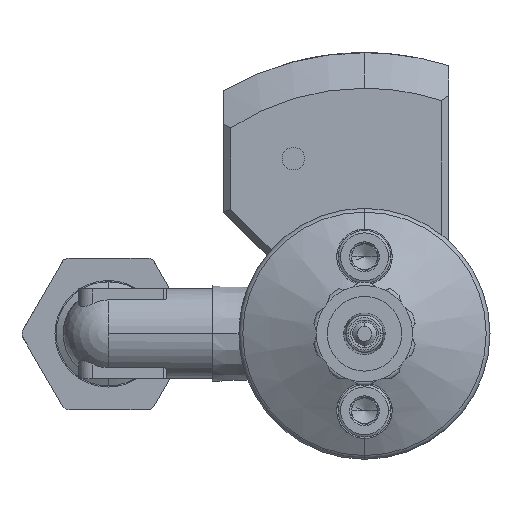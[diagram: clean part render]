
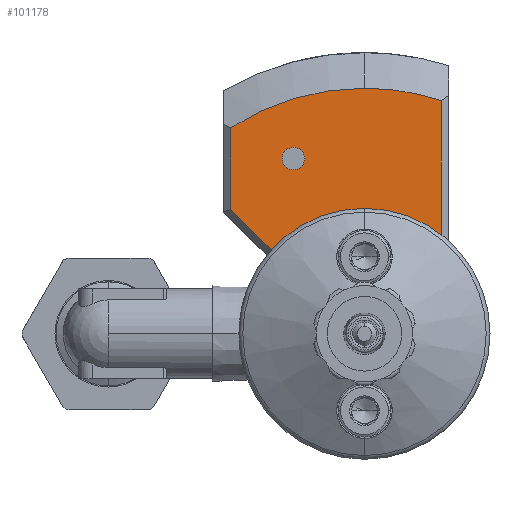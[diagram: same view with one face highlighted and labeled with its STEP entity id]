
A CAD part, front view. The second image highlights one B-rep face of the part: STEP entity #101178.
In plain terms, the highlighted planar face has unit normal (0, -1, 0).
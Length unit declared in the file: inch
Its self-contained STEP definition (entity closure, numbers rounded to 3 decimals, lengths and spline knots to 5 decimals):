
#329 = EDGE_CURVE ( 'NONE', #42288, #186733, #188369, .T. ) ;
#987 = ORIENTED_EDGE ( 'NONE', *, *, #127117, .F. ) ;
#1283 = ORIENTED_EDGE ( 'NONE', *, *, #47360, .T. ) ;
#3626 = VECTOR ( 'NONE', #183651, 39.37008 ) ;
#5422 = EDGE_CURVE ( 'NONE', #46548, #13690, #79040, .T. ) ;
#9818 = VECTOR ( 'NONE', #33631, 39.37008 ) ;
#12690 = ORIENTED_EDGE ( 'NONE', *, *, #35525, .T. ) ;
#13482 = ORIENTED_EDGE ( 'NONE', *, *, #89850, .T. ) ;
#13690 = VERTEX_POINT ( 'NONE', #169957 ) ;
#14234 = CARTESIAN_POINT ( 'NONE',  ( -0.565, 0.005, 0. ) ) ;
#14395 = ORIENTED_EDGE ( 'NONE', *, *, #131683, .T. ) ;
#16151 = VECTOR ( 'NONE', #110164, 39.37008 ) ;
#18172 = CARTESIAN_POINT ( 'NONE',  ( 0.325, 0.005, 0. ) ) ;
#19077 = AXIS2_PLACEMENT_3D ( 'NONE', #149805, #135701, #107337 ) ;
#25115 = ORIENTED_EDGE ( 'NONE', *, *, #46144, .T. ) ;
#28229 = CARTESIAN_POINT ( 'NONE',  ( 0.325, 0.005, 0.98476 ) ) ;
#29725 = ORIENTED_EDGE ( 'NONE', *, *, #329, .T. ) ;
#33631 = DIRECTION ( 'NONE',  ( 0., 0., 1. ) ) ;
#35525 = EDGE_CURVE ( 'NONE', #86364, #190155, #69199, .T. ) ;
#37175 = CARTESIAN_POINT ( 'NONE',  ( 0.0465, 0.005, 0.5127 ) ) ;
#39263 = DIRECTION ( 'NONE',  ( 0., 0., 1. ) ) ;
#42288 = VERTEX_POINT ( 'NONE', #80417 ) ;
#42961 = FACE_OUTER_BOUND ( 'NONE', #160285, .T. ) ;
#42978 = EDGE_CURVE ( 'NONE', #138469, #190155, #79573, .T. ) ;
#46144 = EDGE_CURVE ( 'NONE', #82921, #63250, #138472, .T. ) ;
#46548 = VERTEX_POINT ( 'NONE', #161522 ) ;
#46689 = DIRECTION ( 'NONE',  ( 0., 1., 0. ) ) ;
#47360 = EDGE_CURVE ( 'NONE', #129445, #82921, #105788, .T. ) ;
#47873 = ORIENTED_EDGE ( 'NONE', *, *, #162116, .T. ) ;
#54097 = CARTESIAN_POINT ( 'NONE',  ( 0., 0.005, 0. ) ) ;
#54994 = DIRECTION ( 'NONE',  ( 0., 0., 1. ) ) ;
#56435 = EDGE_CURVE ( 'NONE', #63250, #86364, #124252, .T. ) ;
#56953 = DIRECTION ( 'NONE',  ( 0., 0., 1. ) ) ;
#57651 = DIRECTION ( 'NONE',  ( 0.707, 0., -0.707 ) ) ;
#60325 = DIRECTION ( 'NONE',  ( -1., 0., 0. ) ) ;
#60355 = VECTOR ( 'NONE', #57651, 39.37008 ) ;
#62271 = CARTESIAN_POINT ( 'NONE',  ( 0., 0.005, 0.3427 ) ) ;
#63250 = VERTEX_POINT ( 'NONE', #130174 ) ;
#66314 = CARTESIAN_POINT ( 'NONE',  ( 0.31601, 0.005, 0.381 ) ) ;
#66827 = DIRECTION ( 'NONE',  ( 0., -1., 0. ) ) ;
#69199 = CIRCLE ( 'NONE', #178429, 0.495 ) ;
#69404 = PLANE ( 'NONE',  #90397 ) ;
#72317 = CARTESIAN_POINT ( 'NONE',  ( 0., 0.005, 0. ) ) ;
#73818 = CARTESIAN_POINT ( 'NONE',  ( -0.565, 0.005, 0.52598 ) ) ;
#76064 = CARTESIAN_POINT ( 'NONE',  ( -0.0465, 0.005, 0.49281 ) ) ;
#76093 = ORIENTED_EDGE ( 'NONE', *, *, #42978, .F. ) ;
#77754 = AXIS2_PLACEMENT_3D ( 'NONE', #72317, #189306, #54994 ) ;
#79040 = CIRCLE ( 'NONE', #19077, 0.04724 ) ;
#79573 = LINE ( 'NONE', #168830, #3626 ) ;
#80417 = CARTESIAN_POINT ( 'NONE',  ( 0.0465, 0.005, 0.49281 ) ) ;
#82921 = VERTEX_POINT ( 'NONE', #73818 ) ;
#83673 = ORIENTED_EDGE ( 'NONE', *, *, #5422, .T. ) ;
#85948 = CARTESIAN_POINT ( 'NONE',  ( -0.01951, 0.005, -0.01951 ) ) ;
#86364 = VERTEX_POINT ( 'NONE', #127150 ) ;
#87152 = DIRECTION ( 'NONE',  ( 0., -1., 0. ) ) ;
#87873 = VERTEX_POINT ( 'NONE', #28229 ) ;
#89850 = EDGE_CURVE ( 'NONE', #128271, #129445, #96027, .T. ) ;
#90397 = AXIS2_PLACEMENT_3D ( 'NONE', #127213, #98886, #184431 ) ;
#96027 = CIRCLE ( 'NONE', #165431, 1.037 ) ;
#98164 = EDGE_CURVE ( 'NONE', #186733, #161133, #115872, .T. ) ;
#98886 = DIRECTION ( 'NONE',  ( 0., 1., 0. ) ) ;
#101178 = ADVANCED_FACE ( 'NONE', ( #42961, #132704 ), #69404, .F. ) ;
#105788 = LINE ( 'NONE', #14234, #161017 ) ;
#107337 = DIRECTION ( 'NONE',  ( 0., 0., 1. ) ) ;
#107383 = AXIS2_PLACEMENT_3D ( 'NONE', #175193, #87152, #56953 ) ;
#108251 = EDGE_CURVE ( 'NONE', #115041, #42288, #132709, .T. ) ;
#109555 = ORIENTED_EDGE ( 'NONE', *, *, #121187, .T. ) ;
#110164 = DIRECTION ( 'NONE',  ( 1., 0., 0. ) ) ;
#110507 = DIRECTION ( 'NONE',  ( 0., 0., 1. ) ) ;
#112400 = CARTESIAN_POINT ( 'NONE',  ( 0., 0.005, 0. ) ) ;
#115041 = VERTEX_POINT ( 'NONE', #37175 ) ;
#115199 = DIRECTION ( 'NONE',  ( 1., 0., 0. ) ) ;
#115872 = LINE ( 'NONE', #187881, #138901 ) ;
#116595 = VECTOR ( 'NONE', #172187, 39.37008 ) ;
#121187 = EDGE_CURVE ( 'NONE', #13690, #46548, #162408, .T. ) ;
#121239 = EDGE_LOOP ( 'NONE', ( #109555, #83673 ) ) ;
#122680 = CARTESIAN_POINT ( 'NONE',  ( -0.0465, 0.005, 0.5127 ) ) ;
#124252 = LINE ( 'NONE', #62271, #16151 ) ;
#124265 = CARTESIAN_POINT ( 'NONE',  ( 0., 0.005, 1.037 ) ) ;
#124822 = LINE ( 'NONE', #18172, #9818 ) ;
#127117 = EDGE_CURVE ( 'NONE', #115041, #138469, #164613, .T. ) ;
#127150 = CARTESIAN_POINT ( 'NONE',  ( -0.35718, 0.005, 0.3427 ) ) ;
#127210 = CARTESIAN_POINT ( 'NONE',  ( 0.0465, 0.005, 0.5127 ) ) ;
#127213 = CARTESIAN_POINT ( 'NONE',  ( 0., 0.005, 0. ) ) ;
#128271 = VERTEX_POINT ( 'NONE', #124265 ) ;
#129445 = VERTEX_POINT ( 'NONE', #163098 ) ;
#130174 = CARTESIAN_POINT ( 'NONE',  ( -0.38173, 0.005, 0.3427 ) ) ;
#130856 = CIRCLE ( 'NONE', #107383, 1.037 ) ;
#131683 = EDGE_CURVE ( 'NONE', #87873, #128271, #130856, .T. ) ;
#132420 = VECTOR ( 'NONE', #60325, 39.37008 ) ;
#132704 = FACE_BOUND ( 'NONE', #121239, .T. ) ;
#132709 = LINE ( 'NONE', #127210, #116595 ) ;
#135635 = ORIENTED_EDGE ( 'NONE', *, *, #56435, .T. ) ;
#135701 = DIRECTION ( 'NONE',  ( 0., 1., 0. ) ) ;
#138469 = VERTEX_POINT ( 'NONE', #122680 ) ;
#138472 = LINE ( 'NONE', #85948, #60355 ) ;
#138901 = VECTOR ( 'NONE', #115199, 39.37008 ) ;
#139404 = AXIS2_PLACEMENT_3D ( 'NONE', #149527, #46689, #181042 ) ;
#145425 = DIRECTION ( 'NONE',  ( 0., 0., -1. ) ) ;
#148317 = CARTESIAN_POINT ( 'NONE',  ( -0.0465, 0.005, 0.5127 ) ) ;
#149527 = CARTESIAN_POINT ( 'NONE',  ( -0.3, 0.005, 0.74 ) ) ;
#149805 = CARTESIAN_POINT ( 'NONE',  ( -0.3, 0.005, 0.74 ) ) ;
#156248 = DIRECTION ( 'NONE',  ( 0., 1., 0. ) ) ;
#160285 = EDGE_LOOP ( 'NONE', ( #47873, #14395, #13482, #1283, #25115, #135635, #12690, #76093, #987, #189167, #29725, #183971 ) ) ;
#161017 = VECTOR ( 'NONE', #145425, 39.37008 ) ;
#161133 = VERTEX_POINT ( 'NONE', #168620 ) ;
#161522 = CARTESIAN_POINT ( 'NONE',  ( -0.3, 0.005, 0.69276 ) ) ;
#162116 = EDGE_CURVE ( 'NONE', #161133, #87873, #124822, .T. ) ;
#162408 = CIRCLE ( 'NONE', #139404, 0.04724 ) ;
#163098 = CARTESIAN_POINT ( 'NONE',  ( -0.565, 0.005, 0.86957 ) ) ;
#164613 = LINE ( 'NONE', #148317, #132420 ) ;
#165431 = AXIS2_PLACEMENT_3D ( 'NONE', #112400, #66827, #110507 ) ;
#168620 = CARTESIAN_POINT ( 'NONE',  ( 0.325, 0.005, 0.381 ) ) ;
#168830 = CARTESIAN_POINT ( 'NONE',  ( -0.0465, 0.005, 0.5127 ) ) ;
#169957 = CARTESIAN_POINT ( 'NONE',  ( -0.3, 0.005, 0.78724 ) ) ;
#172187 = DIRECTION ( 'NONE',  ( 0., 0., -1. ) ) ;
#175193 = CARTESIAN_POINT ( 'NONE',  ( 0., 0.005, 0. ) ) ;
#178429 = AXIS2_PLACEMENT_3D ( 'NONE', #54097, #156248, #39263 ) ;
#181042 = DIRECTION ( 'NONE',  ( 0., 0., 1. ) ) ;
#183651 = DIRECTION ( 'NONE',  ( 0., 0., -1. ) ) ;
#183971 = ORIENTED_EDGE ( 'NONE', *, *, #98164, .T. ) ;
#184431 = DIRECTION ( 'NONE',  ( 0., 0., 1. ) ) ;
#186733 = VERTEX_POINT ( 'NONE', #66314 ) ;
#187881 = CARTESIAN_POINT ( 'NONE',  ( 0., 0.005, 0.381 ) ) ;
#188369 = CIRCLE ( 'NONE', #77754, 0.495 ) ;
#189167 = ORIENTED_EDGE ( 'NONE', *, *, #108251, .T. ) ;
#189306 = DIRECTION ( 'NONE',  ( 0., 1., 0. ) ) ;
#190155 = VERTEX_POINT ( 'NONE', #76064 ) ;
